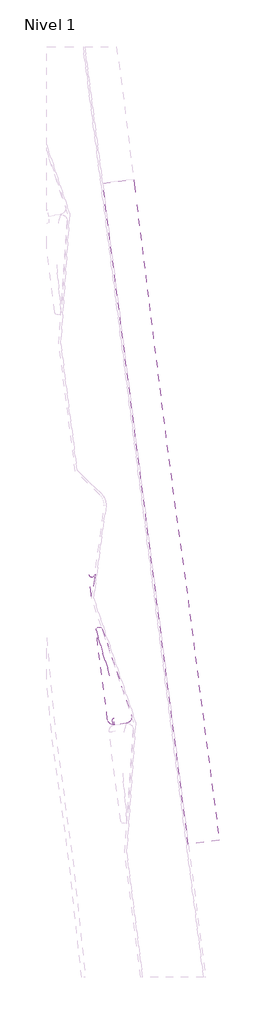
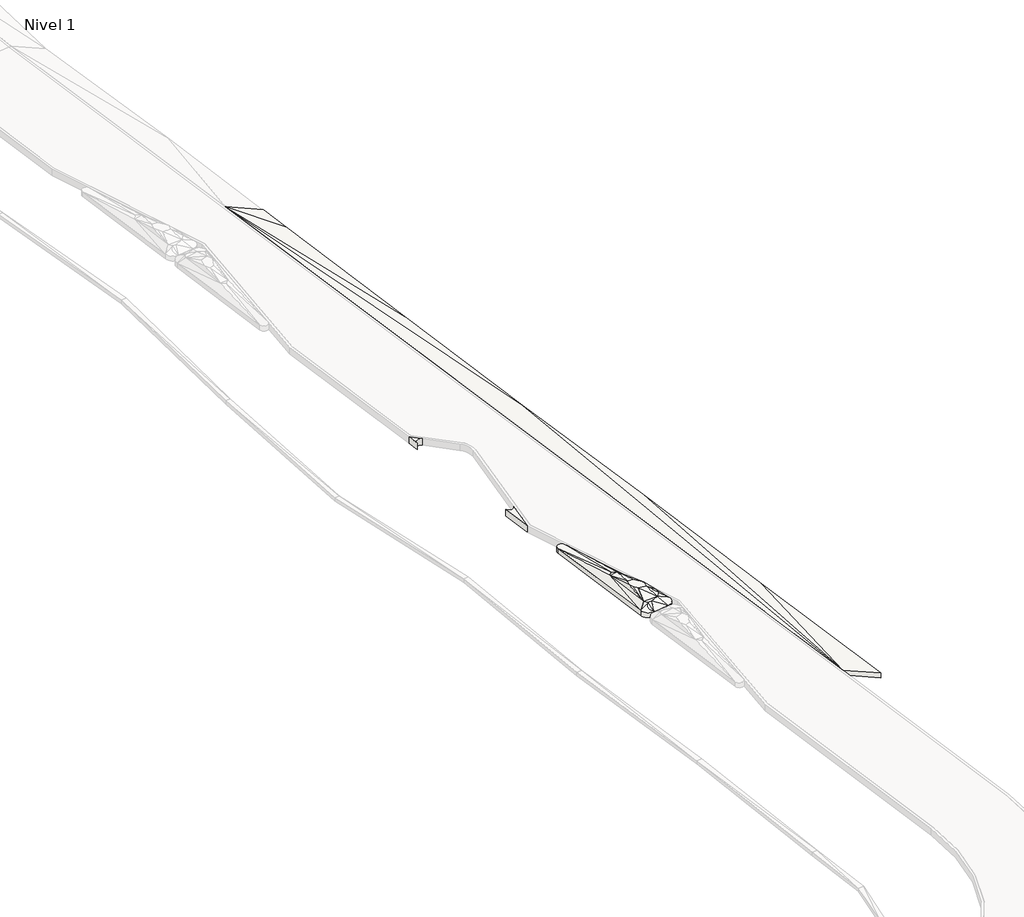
# One storey, part 28 of 45: 3 slabs.
"""IFC4 building model written with IfcOpenShell, lengths in millimetres."""

from ifc_helpers import new_model, si_unit, point, frame, frame_2d, origin, place, context, project, spatial, polyline, circle_curve, trimmed, segment, composite_curve, outline, extrude, faceted_brep, element, save
from ifc_brep_helpers import plane_surface, cylinder_surface, revolved_surface, spline_surface, advanced_brep

model = new_model("IFC4")

# Units and contexts
model_context = context("Model", 3, world=origin())
ifc_project = project(units=[si_unit("LENGTHUNIT", "METRE", prefix="MILLI")], contexts=[model_context])

# Site, building, storey
site = spatial("IfcSite", under=ifc_project)
building = spatial("IfcBuilding", under=site)
storey = spatial("IfcBuildingStorey", under=building, Name="Nivel 1", Elevation=0.0)

# Slabs
placement = place(None, origin())
element("IfcSlab", 1, ObjectType="Junko", at=placement, inside=storey, context=model_context, shape_type="Brep", body=[
    faceted_brep([(-156817.2074926, 484756.6705251, 4450.0), (-156817.2074926, 484756.6705251, 4750.0), (-163497.657802, 536312.8406676, 4750.0), (-163497.657802, 536312.8406676, 4450.0), (-161087.0359499, 536613.3772093, 3535.3722897), (-161087.0359499, 536613.3772093, 3235.3722897), (-160842.6412559, 534653.0725272, 3540.1394628), (-160842.6412559, 534653.0725272, 3240.1394628), (-159607.0891145, 524729.5701751, 3565.0795329), (-159607.0891145, 524729.5701751, 3265.0795329), (-158360.5554451, 514807.4907666, 3584.4822398), (-158360.5554451, 514807.4907666, 3284.4822398), (-156979.6320198, 504902.8250655, 3540.6667299), (-156979.6320198, 504902.8250655, 3240.6667299), (-155704.193691, 494984.4910116, 3540.9593526), (-155704.193691, 494984.4910116, 3240.9593526), (-154399.8854975, 485069.8977971, 3531.2346113), (-154399.8854975, 485069.8977971, 3231.2346113)], [[[0, 1, 2, 3]], [[3, 2, 4, 5]], [[5, 4, 6, 7]], [[7, 6, 8, 9]], [[9, 8, 10, 11]], [[11, 10, 12, 13]], [[13, 12, 14, 15]], [[15, 14, 16, 17]], [[17, 16, 1, 0]], [[16, 14, 1]], [[17, 0, 15]], [[8, 6, 2]], [[6, 4, 2]], [[10, 8, 2]], [[12, 10, 1]], [[14, 12, 1]], [[10, 2, 1]], [[9, 3, 7]], [[7, 3, 5]], [[11, 3, 9]], [[13, 0, 11]], [[15, 0, 13]], [[11, 0, 3]]]),
])
element("IfcSlab", 2, ObjectType="Lippia", at=placement, inside=storey, context=model_context, shape_type="AdvancedBrep", body=[
    advanced_brep(
    [(-161658.5251427, 494208.5463059, 4450.0), (-161658.5251427, 494208.5463059, 4750.0), (-162567.5974834, 494091.3607274, 4750.0), (-162567.5974834, 494091.3607274, 4450.0), (-161283.6104922, 494890.2106901, 4450.0), (-161283.6104922, 494890.2106901, 4750.0), (-163528.1422308, 501541.2685166, 4450.0), (-163528.1422308, 501541.2685166, 4750.0), (-163123.9614642, 494521.8637484, 4450.0), (-163123.9614642, 494521.8637484, 4750.0), (-164015.0046093, 501460.4344104, 4750.0), (-164015.0046093, 501460.4344104, 4450.0), (-162066.6076177, 496045.8798948, 5250.0), (-162428.0783631, 496498.8008803, 5250.0), (-162758.311661, 496541.777036, 5250.0), (-162845.9065592, 496216.8243299, 5250.0), (-162715.9318915, 495974.9683619, 5250.0), (-162577.7024364, 495695.7541699, 5250.0), (-162136.8880163, 495673.4995221, 5250.0), (-161967.3404513, 494826.7952959, 5050.0), (-162416.8898321, 494596.2376122, 5050.0), (-162066.6076177, 496045.8798948, 4950.0), (-162136.8880163, 495673.4995221, 4950.0), (-162577.7024364, 495695.7541699, 4950.0), (-162715.9318915, 495974.9683619, 4950.0), (-162845.9065592, 496216.8243299, 4950.0), (-162758.311661, 496541.777036, 4950.0), (-162428.0783631, 496498.8008803, 4950.0), (-161967.3404513, 494826.7952959, 4750.0), (-162416.8898321, 494596.2376122, 4750.0), (-162641.4181777, 497754.6701761, 5050.0), (-163122.0443011, 497632.6518288, 5050.0), (-162641.4181777, 497754.6701761, 4750.0), (-163122.0443011, 497632.6518288, 4750.0), (-162779.1862213, 494788.7773837, 5050.0), (-162628.3096587, 494587.6610718, 5050.0), (-162779.1862213, 494788.7773837, 4750.0), (-162628.3096587, 494587.6610718, 4750.0), (-161727.3419515, 495096.1545732, 5050.0), (-161727.3419515, 495096.1545732, 4750.0), (-161731.0807931, 495456.9034072, 5050.0), (-161731.0807931, 495456.9034072, 4750.0), (-162935.3531357, 497904.9021891, 5050.0), (-162935.3531357, 497904.9021891, 4750.0)],
    [
        (0, 1),
        (1, 2),
        (2, 3),
        (3, 0),
        (4, 5),
        (5, 1, circle_curve(frame((-161746.3352833, 494700.7752969, 4750.0), z_axis=(0.0, 0.0, -1.0), x_axis=(0.41419378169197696, 0.9101887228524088, 0.0)), 500.0000005)),
        (0, 4, circle_curve(frame((-161746.3352833, 494700.7752969, 4450.0), z_axis=(0.0, 0.0, 1.0), x_axis=(0.41419378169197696, 0.9101887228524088, 0.0)), 500.0000005)),
        (6, 7),
        (7, 5),
        (4, 6),
        (8, 9),
        (9, 10),
        (10, 11),
        (11, 8),
        (2, 9, circle_curve(frame((-162628.3096587, 494587.6610718, 4750.0), z_axis=(0.0, 0.0, -1.0), x_axis=(0.41419378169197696, 0.9101887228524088, 0.0)), 500.0000001)),
        (8, 3, circle_curve(frame((-162628.3096587, 494587.6610718, 4450.0), z_axis=(0.0, 0.0, 1.0), x_axis=(0.41419378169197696, 0.9101887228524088, 0.0)), 500.0000001)),
        (12, 13),
        (13, 14),
        (14, 15),
        (15, 16),
        (16, 17),
        (17, 18),
        (18, 12),
        (5, 19),
        (19, 1),
        (1, 20),
        (20, 2),
        (21, 22),
        (22, 23),
        (23, 24),
        (24, 25),
        (25, 26),
        (26, 27),
        (27, 21),
        (0, 28),
        (28, 4),
        (3, 29),
        (29, 0),
        (13, 30),
        (30, 14),
        (14, 31),
        (31, 15),
        (26, 32),
        (32, 27),
        (25, 33),
        (33, 26),
        (30, 31),
        (12, 30),
        (33, 32),
        (32, 21),
        (34, 9),
        (9, 35),
        (35, 34),
        (16, 34),
        (34, 17),
        (36, 37),
        (37, 8),
        (8, 36),
        (23, 36),
        (36, 24),
        (2, 35),
        (35, 20),
        (20, 19),
        (19, 34),
        (37, 3),
        (36, 28),
        (28, 29),
        (29, 37),
        (19, 17),
        (19, 18),
        (5, 38),
        (38, 19),
        (23, 28),
        (22, 28),
        (28, 39),
        (39, 4),
        (40, 18),
        (18, 38),
        (38, 40),
        (40, 5),
        (5, 30),
        (30, 40),
        (41, 39),
        (39, 22),
        (22, 41),
        (41, 32),
        (32, 4),
        (4, 41),
        (34, 15),
        (31, 34),
        (31, 9),
        (36, 33),
        (25, 36),
        (8, 33),
        (40, 12),
        (21, 41),
        (42, 31),
        (30, 42),
        (43, 32),
        (33, 43),
        (10, 7, circle_curve(frame((-163765.006097, 501461.2965943, 4750.0), z_axis=(0.0, 0.0, -1.0), x_axis=(0.41419378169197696, 0.9101887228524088, 0.0)), 249.999999)),
        (6, 11, circle_curve(frame((-163765.006097, 501461.2965943, 4450.0), z_axis=(0.0, 0.0, 1.0), x_axis=(0.41419378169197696, 0.9101887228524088, 0.0)), 249.999999)),
        (31, 10),
        (42, 10),
        (42, 7),
        (30, 7),
        (11, 33),
        (11, 43),
        (6, 43),
        (6, 32),
    ],
    [
        plane_surface(frame((-161658.5251427, 494208.5463059, 4450.0), z_axis=(0.12784891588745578, -0.9917936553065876, 0.0), x_axis=(0.0, 0.0, 1.0))),
        cylinder_surface(frame((-161746.3352833, 494700.7752969, 4750.0), z_axis=(0.0, 0.0, -1.0000000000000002), x_axis=(0.41419378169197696, 0.9101887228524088, 0.0)), 500.0000005),
        plane_surface(frame((-163528.1422308, 501541.2685166, 4450.0), z_axis=(0.9475009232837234, 0.3197530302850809, 0.0), x_axis=(0.0, 0.0, 1.0))),
        plane_surface(frame((-163123.9614642, 494521.8637484, 4450.0), z_axis=(-0.9918549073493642, -0.12737284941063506, 0.0), x_axis=(0.0, 0.0, 1.0))),
        cylinder_surface(frame((-162628.3096587, 494587.6610718, 4750.0), z_axis=(0.0, 0.0, -1.0000000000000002), x_axis=(0.41419378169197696, 0.9101887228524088, 0.0)), 500.0000001),
        plane_surface(frame((-162504.2037922, 496092.5005993, 5250.0), z_axis=(0.0, 0.0, 1.0000000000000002), x_axis=(-0.6237833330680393, 0.7815973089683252, 0.0))),
        spline_surface(2, 1, [[(-161658.5251427, 494208.5463059, 4750.0), (-161967.3404513, 494826.7952959, 5050.0)], [(-161423.35102173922, 494250.4996914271, 4750.0), (-161967.3404513, 494826.7952959, 5050.0)], [(-161308.2271221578, 494459.81629724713, 4750.0), (-161967.3404513, 494826.7952959, 5050.0)], [(-161193.10322261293, 494669.1329031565, 4750.0), (-161967.3404513, 494826.7952959, 5050.0)], [(-161283.6104922, 494890.2106901, 4750.0), (-161967.3404513, 494826.7952959, 5050.0)]], [3, 2, 3], [2, 2], [0.0, 1.0, 2.0], [0.0, 1.0], weights=[[1.0, 1.0], [0.9023052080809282, 0.9023052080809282], [1.0, 1.0], [0.902305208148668, 0.902305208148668], [1.0, 1.0]]),
        plane_surface(frame((-162214.3374861, 494298.7148818, 4850.0), z_axis=(0.06761124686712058, -0.5244972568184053, 0.84872336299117), x_axis=(0.9917936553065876, 0.12784891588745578, 0.0))),
        plane_surface(frame((-162504.2037922, 496092.5005993, 4950.0), z_axis=(0.0, 0.0, -1.0000000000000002), x_axis=(-0.6237833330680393, 0.7815973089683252, 0.0))),
        spline_surface(1, 2, [[(-161658.5251427, 494208.5463059, 4450.0), (-161423.35102173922, 494250.4996914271, 4450.0), (-161308.2271221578, 494459.81629724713, 4450.0), (-161193.10322261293, 494669.1329031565, 4450.0), (-161283.6104922, 494890.2106901, 4450.0)], [(-161967.3404513, 494826.7952959, 4750.0), (-161967.3404513, 494826.7952959, 4750.0), (-161967.3404513, 494826.7952959, 4750.0), (-161967.3404513, 494826.7952959, 4750.0), (-161967.3404513, 494826.7952959, 4750.0)]], [2, 2], [3, 2, 3], [0.0, 1.0], [0.0, 1.0, 2.0], weights=[[1.0, 0.9023052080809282, 1.0, 0.902305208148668, 1.0], [1.0, 0.9023052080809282, 1.0, 0.902305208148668, 1.0]]),
        plane_surface(frame((-162214.3374861, 494298.7148818, 4550.0), z_axis=(-0.06761124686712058, 0.5244972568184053, -0.84872336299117), x_axis=(0.9917936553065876, 0.12784891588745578, 0.0))),
        plane_surface(frame((-162609.2694006, 496931.7493641, 5183.3333333), z_axis=(0.02091327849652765, 0.160699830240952, 0.986781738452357), x_axis=(0.9916380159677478, -0.1290505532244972, 0.0))),
        plane_surface(frame((-162908.7541738, 496797.0843983, 5183.3333333), z_axis=(-0.29000874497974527, 0.07817533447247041, 0.9538257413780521), x_axis=(0.260271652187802, 0.9655354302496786, 0.0))),
        plane_surface(frame((-162609.2694006, 496931.7493641, 4883.3333333), z_axis=(-0.02091327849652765, -0.160699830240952, -0.986781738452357), x_axis=(0.9916380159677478, -0.1290505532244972, 0.0))),
        plane_surface(frame((-162908.7541738, 496797.0843983, 4883.3333333), z_axis=(0.29000874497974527, -0.07817533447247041, -0.9538257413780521), x_axis=(0.260271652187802, 0.9655354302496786, 0.0))),
        plane_surface(frame((-162840.59138, 497309.6996803, 5116.6666667), z_axis=(-0.04227442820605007, 0.16651753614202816, 0.9851318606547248), x_axis=(0.3116337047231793, -0.9346242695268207, 0.17135317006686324))),
        plane_surface(frame((-162378.7013862, 496766.450317, 5183.3333333), z_axis=(0.24113428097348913, 0.19244634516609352, 0.9512195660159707), x_axis=(0.16544823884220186, -0.9739455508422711, 0.15510301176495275))),
        plane_surface(frame((-162840.59138, 497309.6996803, 4816.6666667), z_axis=(0.04227442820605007, -0.16651753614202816, -0.9851318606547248), x_axis=(0.3116337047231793, -0.9346242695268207, 0.17135317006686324))),
        plane_surface(frame((-162378.7013862, 496766.450317, 4883.3333333), z_axis=(-0.24113428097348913, -0.19244634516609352, -0.9512195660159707), x_axis=(0.16544823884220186, -0.9739455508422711, 0.15510301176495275))),
        plane_surface(frame((-162843.8191147, 494632.7674013, 4950.0), z_axis=(-0.4534588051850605, -0.34018277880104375, 0.8238026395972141), x_axis=(-0.6514326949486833, -0.5043177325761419, -0.5668324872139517))),
        plane_surface(frame((-162690.940183, 495486.4999718, 5183.3333333), z_axis=(-0.29081868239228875, -0.1439744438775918, 0.9458836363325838), x_axis=(-0.4436726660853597, 0.8961889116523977, 0.0))),
        plane_surface(frame((-162843.8191147, 494632.7674013, 4650.0), z_axis=(0.4534588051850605, 0.34018277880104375, -0.8238026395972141), x_axis=(-0.6514326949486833, -0.5043177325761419, -0.5668324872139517))),
        plane_surface(frame((-162690.940183, 495486.4999718, 4883.3333333), z_axis=(0.29081868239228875, 0.1439744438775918, -0.9458836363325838), x_axis=(-0.4436726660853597, 0.8961889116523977, 0.0))),
        revolved_surface(polyline([(-162628.3096587, 494587.6610718, 5050.0), (-163123.9614642, 494521.8637484, 4750.0)]), (-162628.3096587, 494587.6610718, 5050.0), (0.0, 0.0, -1.0)),
        plane_surface(frame((-162447.9315408, 494699.8678409, 5050.0), z_axis=(0.0, 0.0, 1.0), x_axis=(0.9991781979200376, 0.0405330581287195, 0.0))),
        plane_surface(frame((-162537.5989914, 494425.0864705, 4950.0), z_axis=(0.020904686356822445, -0.5153202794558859, 0.8567426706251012), x_axis=(0.10412052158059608, -0.851148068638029, -0.5144957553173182))),
        revolved_surface(polyline([(-162567.5974834, 494091.3607274, 4450.0), (-162628.3096587, 494587.6610718, 4750.0)]), (-162628.3096587, 494587.6610718, 4750.0), (0.0, 0.0, -1.0)),
        plane_surface(frame((-162447.9315408, 494699.8678409, 4750.0), z_axis=(0.0, 0.0, -1.0), x_axis=(0.9991781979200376, 0.0405330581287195, 0.0))),
        plane_surface(frame((-162537.5989914, 494425.0864705, 4650.0), z_axis=(-0.020904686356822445, 0.5153202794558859, -0.8567426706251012), x_axis=(0.10412052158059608, -0.851148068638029, -0.5144957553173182))),
        plane_surface(frame((-162441.409703, 495103.7756165, 5116.6666667), z_axis=(0.010184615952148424, -0.21748530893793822, 0.97601045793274), x_axis=(-0.5648519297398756, 0.8041672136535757, 0.1850875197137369))),
        plane_surface(frame((-162227.3103013, 495398.682996, 5183.3333333), z_axis=(-0.011717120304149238, -0.23208974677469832, 0.9726238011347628), x_axis=(-0.19128273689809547, 0.9552475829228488, 0.22563902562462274))),
        plane_surface(frame((-161659.430965, 494937.7201864, 4950.0), z_axis=(0.40274348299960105, -0.3588435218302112, 0.8420386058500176), x_axis=(0.912444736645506, 0.08462850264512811, -0.40035311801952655))),
        plane_surface(frame((-162014.2518087, 494543.859738, 4950.0), z_axis=(0.18172584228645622, -0.3543353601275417, 0.9172906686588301), x_axis=(0.8398215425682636, -0.42933369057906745, -0.3322233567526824))),
        plane_surface(frame((-162441.409703, 495103.7756165, 4816.6666667), z_axis=(-0.010184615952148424, 0.21748530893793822, -0.97601045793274), x_axis=(-0.5648519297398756, 0.8041672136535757, 0.1850875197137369))),
        plane_surface(frame((-162227.3103013, 495398.682996, 4883.3333333), z_axis=(0.011717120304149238, 0.23208974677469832, -0.9726238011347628), x_axis=(-0.19128273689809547, 0.9552475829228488, 0.22563902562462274))),
        plane_surface(frame((-161659.430965, 494937.7201864, 4650.0), z_axis=(-0.40274348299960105, 0.3588435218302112, -0.8420386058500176), x_axis=(0.912444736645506, 0.08462850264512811, -0.40035311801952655))),
        plane_surface(frame((-162014.2518087, 494543.859738, 4650.0), z_axis=(-0.18172584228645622, 0.3543353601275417, -0.9172906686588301), x_axis=(0.8398215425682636, -0.42933369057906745, -0.3322233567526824))),
        plane_surface(frame((-161865.103587, 495408.8525008, 5116.6666667), z_axis=(0.44404235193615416, 0.004602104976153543, 0.8959939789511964), x_axis=(-0.8090403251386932, 0.4318183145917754, 0.3987313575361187))),
        plane_surface(frame((-161885.369821, 496033.9280911, 4950.0), z_axis=(0.7648784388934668, 0.30303225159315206, 0.5684473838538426), x_axis=(0.5722845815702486, -0.724762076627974, -0.38367993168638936))),
        plane_surface(frame((-161865.103587, 495408.8525008, 4816.6666667), z_axis=(-0.44404235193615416, -0.004602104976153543, -0.8959939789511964), x_axis=(-0.8090403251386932, 0.4318183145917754, 0.3987313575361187))),
        plane_surface(frame((-161885.369821, 496033.9280911, 4650.0), z_axis=(-0.7648784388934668, -0.30303225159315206, -0.5684473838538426), x_axis=(0.5722845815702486, -0.724762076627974, -0.38367993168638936))),
        plane_surface(frame((-161943.8568064, 495198.8164637, 5116.6666667), z_axis=(0.2078989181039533, -0.18523746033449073, 0.9604504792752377), x_axis=(-0.5567778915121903, 0.7849004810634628, 0.2719000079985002))),
        plane_surface(frame((-161943.8568064, 495198.8164637, 4816.6666667), z_axis=(-0.2078989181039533, 0.18523746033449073, -0.9604504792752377), x_axis=(-0.5567778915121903, 0.7849004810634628, 0.2719000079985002))),
        plane_surface(frame((-162915.7123605, 496212.7511808, 5116.6666667), z_axis=(-0.8795981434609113, -0.1060445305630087, 0.46374741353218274), x_axis=(-0.0462203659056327, 0.9892763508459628, 0.13854955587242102))),
        plane_surface(frame((-162780.3415573, 495660.1900252, 5183.3333333), z_axis=(-0.27152264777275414, -0.14591769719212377, 0.9513061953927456), x_axis=(0.05251084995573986, 0.984721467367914, 0.16603084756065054))),
        plane_surface(frame((-163008.3973289, 495647.7643203, 4950.0), z_axis=(-0.6209666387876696, -0.07486386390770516, 0.7802536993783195), x_axis=(-0.0006134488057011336, -0.9953817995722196, -0.09599321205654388))),
        plane_surface(frame((-162915.7123605, 496212.7511808, 4816.6666667), z_axis=(0.8795981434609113, 0.1060445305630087, -0.46374741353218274), x_axis=(-0.0462203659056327, 0.9892763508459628, 0.13854955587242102))),
        plane_surface(frame((-162780.3415573, 495660.1900252, 4883.3333333), z_axis=(0.27152264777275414, 0.14591769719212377, -0.9513061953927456), x_axis=(0.05251084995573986, 0.984721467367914, 0.16603084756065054))),
        plane_surface(frame((-163008.3973289, 495647.7643203, 4650.0), z_axis=(0.6209666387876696, 0.07486386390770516, -0.7802536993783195), x_axis=(-0.0006134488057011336, -0.9953817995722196, -0.09599321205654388))),
        plane_surface(frame((-161978.1921424, 495725.427608, 5183.3333333), z_axis=(0.4074399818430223, -0.07689729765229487, 0.909988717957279), x_axis=(-0.18545869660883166, -0.9826520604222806, 0.0))),
        plane_surface(frame((-162146.3688628, 496419.1511594, 5116.6666667), z_axis=(0.839772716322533, 0.3327041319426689, 0.4290568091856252), x_axis=(0.31688543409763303, -0.9420334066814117, 0.11025734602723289))),
        plane_surface(frame((-161978.1921424, 495725.427608, 4883.3333333), z_axis=(-0.4074399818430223, 0.07689729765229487, -0.909988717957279), x_axis=(-0.18545869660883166, -0.9826520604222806, 0.0))),
        plane_surface(frame((-162146.3688628, 496419.1511594, 4816.6666667), z_axis=(-0.839772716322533, -0.3327041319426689, -0.4290568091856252), x_axis=(0.31688543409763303, -0.9420334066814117, 0.11025734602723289))),
        plane_surface(frame((-162899.6052048, 497764.0747314, 5050.0), z_axis=(0.0, 0.0, 1.0), x_axis=(-0.5655390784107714, -0.8247214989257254, 0.0))),
        plane_surface(frame((-161580.6777456, 495147.7562235, 4950.0), z_axis=(0.5619341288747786, 0.005823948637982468, 0.8271614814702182), x_axis=(0.7732455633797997, -0.35887740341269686, -0.5227794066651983))),
        plane_surface(frame((-162899.6052048, 497764.0747314, 4750.0), z_axis=(0.0, 0.0, -1.0), x_axis=(-0.5655390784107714, -0.8247214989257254, 0.0))),
        plane_surface(frame((-161580.6777456, 495147.7562235, 4650.0), z_axis=(-0.5619341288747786, -0.005823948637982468, -0.8271614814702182), x_axis=(0.7732455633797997, -0.35887740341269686, -0.5227794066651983))),
        cylinder_surface(frame((-163765.006097, 501461.2965943, 4750.0), z_axis=(0.0, 0.0, -1.0000000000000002), x_axis=(0.41419378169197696, 0.9101887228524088, 0.0)), 249.999999),
        plane_surface(frame((-163420.3367915, 497871.6499959, 4850.0), z_axis=(-0.5968959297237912, -0.07665267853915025, 0.7986486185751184), x_axis=(0.12737284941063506, -0.9918549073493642, 0.0))),
        plane_surface(frame((-163357.4673487, 498999.3294761, 4950.0), z_axis=(-0.0848282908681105, 0.05816959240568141, 0.9946961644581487), x_axis=(0.22652516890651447, -0.9710275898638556, 0.07610366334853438))),
        spline_surface(2, 1, [[(-163528.1422308, 501541.2685166, 4750.0), (-162935.3531357, 497904.9021891, 5050.0)], [(-163596.1684595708, 501742.7511755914, 4750.0), (-162935.3531357, 497904.9021891, 5050.0)], [(-163805.95323257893, 501707.92046085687, 4750.0), (-162935.3531357, 497904.9021891, 5050.0)], [(-164015.7380055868, 501673.08974604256, 4750.0), (-162935.3531357, 497904.9021891, 5050.0)], [(-164015.0046093, 501460.4344104, 4750.0), (-162935.3531357, 497904.9021891, 5050.0)]], [3, 2, 3], [2, 2], [0.0, 1.0, 2.0], [0.0, 1.0], weights=[[1.0, 1.0], [0.7617038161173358, 0.7617038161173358], [1.0, 1.0], [0.7617038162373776, 0.7617038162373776], [1.0, 1.0]]),
        plane_surface(frame((-163034.9711814, 499066.9469606, 4950.0), z_axis=(0.0457656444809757, 0.08954231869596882, 0.9949309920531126), x_axis=(0.8904364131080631, -0.45510767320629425, 0.0))),
        plane_surface(frame((-162484.3903002, 498062.0497943, 4850.0), z_axis=(0.5961501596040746, 0.20118272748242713, 0.7772583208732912), x_axis=(0.42642791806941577, -0.8996012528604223, -0.0942168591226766))),
        plane_surface(frame((-163420.3367915, 497871.6499959, 4550.0), z_axis=(0.5968959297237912, 0.07665267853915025, -0.7986486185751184), x_axis=(0.12737284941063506, -0.9918549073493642, 0.0))),
        plane_surface(frame((-163357.4673487, 498999.3294761, 4650.0), z_axis=(0.0848282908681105, -0.05816959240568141, -0.9946961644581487), x_axis=(0.22652516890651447, -0.9710275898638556, 0.07610366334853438))),
        spline_surface(1, 2, [[(-163528.1422308, 501541.2685166, 4450.0), (-163596.1684595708, 501742.7511755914, 4450.0), (-163805.95323257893, 501707.92046085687, 4450.0), (-164015.7380055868, 501673.08974604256, 4450.0), (-164015.0046093, 501460.4344104, 4450.0)], [(-162935.3531357, 497904.9021891, 4750.0), (-162935.3531357, 497904.9021891, 4750.0), (-162935.3531357, 497904.9021891, 4750.0), (-162935.3531357, 497904.9021891, 4750.0), (-162935.3531357, 497904.9021891, 4750.0)]], [2, 2], [3, 2, 3], [0.0, 1.0], [0.0, 1.0, 2.0], weights=[[1.0, 0.7617038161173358, 1.0, 0.7617038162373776, 1.0], [1.0, 0.7617038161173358, 1.0, 0.7617038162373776, 1.0]]),
        plane_surface(frame((-163034.9711814, 499066.9469606, 4650.0), z_axis=(-0.0457656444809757, -0.08954231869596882, -0.9949309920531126), x_axis=(0.8904364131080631, -0.45510767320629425, 0.0))),
        plane_surface(frame((-162484.3903002, 498062.0497943, 4550.0), z_axis=(-0.5961501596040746, -0.20118272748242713, -0.7772583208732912), x_axis=(0.42642791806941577, -0.8996012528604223, -0.0942168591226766))),
    ],
    [
        (0, [[1, 2, 3, 4]]),
        (1, [[5, 6, -1, 7]]),
        (2, [[8, 9, -5, 10]]),
        (3, [[11, 12, 13, 14]]),
        (4, [[-3, 15, -11, 16]]),
        (5, [[17, 18, 19, 20, 21, 22, 23]]),
        (6, [[-6, 24, 25]]),
        (7, [[-2, 26, 27]]),
        (8, [[28, 29, 30, 31, 32, 33, 34]]),
        (9, [[35, 36, -7]]),
        (10, [[37, 38, -4]]),
        (11, [[-18, 39, 40]]),
        (12, [[-19, 41, 42]]),
        (13, [[43, 44, -33]]),
        (14, [[45, 46, -32]]),
        (15, [[-41, -40, 47]]),
        (16, [[-39, -17, 48]]),
        (17, [[49, -43, -46]]),
        (18, [[50, -34, -44]]),
        (19, [[51, 52, 53]]),
        (20, [[-21, 54, 55]]),
        (21, [[56, 57, 58]]),
        (22, [[59, 60, -30]]),
        (23, [[-52, -15, 61]]),
        (24, [[62, 63, 64, -53]]),
        (25, [[-61, -27, -62]]),
        (26, [[65, -16, -57]]),
        (27, [[-56, 66, 67, 68]]),
        (28, [[-68, -37, -65]]),
        (29, [[69, -55, -64]]),
        (30, [[70, -22, -69]]),
        (31, [[-24, 71, 72]]),
        (32, [[-26, -25, -63]]),
        (33, [[-66, -59, 73]]),
        (34, [[-73, -29, 74]]),
        (35, [[75, 76, -36]]),
        (36, [[-67, -35, -38]]),
        (37, [[77, 78, 79]]),
        (38, [[80, 81, 82]]),
        (39, [[83, 84, 85]]),
        (40, [[86, 87, 88]]),
        (41, [[-78, -70, -72]]),
        (42, [[-75, -74, -84]]),
        (43, [[89, -42, 90]]),
        (44, [[-54, -20, -89]]),
        (45, [[91, -51, -90]]),
        (46, [[92, -45, 93]]),
        (47, [[-93, -31, -60]]),
        (48, [[-92, -58, 94]]),
        (49, [[-23, -77, 95]]),
        (50, [[-48, -95, -82]]),
        (51, [[96, -85, -28]]),
        (52, [[-86, -96, -50]]),
        (53, [[97, -47, 98]]),
        (54, [[-71, -80, -79]]),
        (55, [[99, -49, 100]]),
        (56, [[-83, -88, -76]]),
        (57, [[-13, 101, -8, 102]]),
        (58, [[-12, -91, 103]]),
        (59, [[-103, -97, 104]]),
        (60, [[-104, 105, -101]]),
        (61, [[-98, 106, -105]]),
        (62, [[-81, -9, -106]]),
        (63, [[107, -94, -14]]),
        (64, [[108, -100, -107]]),
        (65, [[-102, 109, -108]]),
        (66, [[-109, 110, -99]]),
        (67, [[-110, -10, -87]]),
    ],
),
])
element("IfcSlab", 3, ObjectType="Bordillo", at=placement, inside=storey, context=model_context, shape_type="SweptSolid", body=[
    extrude(outline(composite_curve([segment(polyline([(-164096.9044507, 505819.6273236), (-164345.3950718, 503943.9916437), (-164584.3262433, 505789.2326261)]), True, "CONTINUOUS"), segment(trimmed(circle_curve(frame_2d((-164344.1789498, 505861.5773657)), 250.8076633), [point((-164584.3262433, 505789.2326261))], [point((-164096.9044507, 505819.6273236))], True, "CARTESIAN"), True, "CONTINUOUS")], self_intersect=False)), frame((0.0, 0.0, 4350.0), z_axis=(0.0, 0.0, 1.0), x_axis=(1.0, 0.0, 0.0)), (0.0, 0.0, 1.0), 400.0),
    extrude(outline(composite_curve([segment(polyline([(-165539.4222729, 513160.1569082), (-165630.3402204, 513861.8133765), (-165118.4158861, 513364.9464268)]), True, "CONTINUOUS"), segment(trimmed(circle_curve(frame_2d((-165290.5260485, 513183.6232567)), 250.0000001), [point((-165118.4158861, 513364.9464268))], [point((-165539.4222729, 513160.1569082))], True, "CARTESIAN"), True, "CONTINUOUS")], self_intersect=False)), frame((0.0, 0.0, 4350.0), z_axis=(0.0, 0.0, 1.0), x_axis=(1.0, 0.0, 0.0)), (0.0, 0.0, 1.0), 400.0),
])

save(model, "model.ifc")
